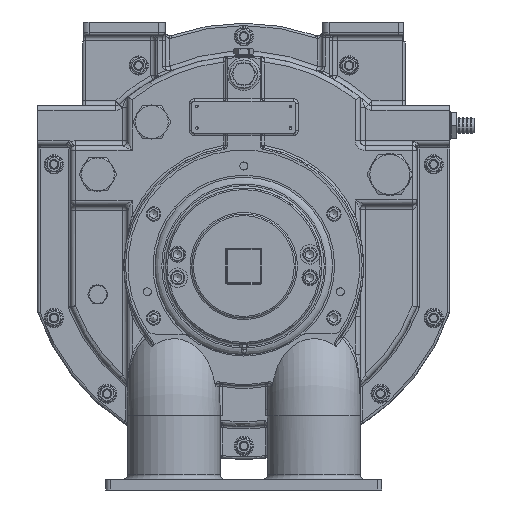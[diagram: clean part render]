
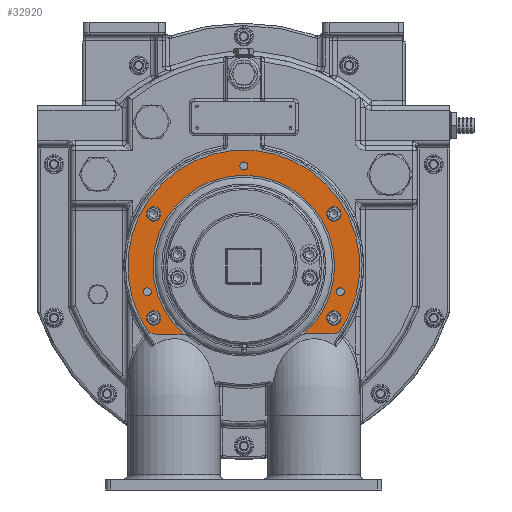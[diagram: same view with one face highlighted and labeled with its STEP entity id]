
A CAD part, left-side view. The second image highlights one B-rep face of the part: STEP entity #32920.
In plain terms, the highlighted planar face has unit normal (-1, 0, 0).
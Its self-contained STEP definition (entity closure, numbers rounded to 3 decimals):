
#1854=FACE_BOUND('',#5586,.T.);
#1855=FACE_BOUND('',#5587,.T.);
#1856=FACE_BOUND('',#5588,.T.);
#1857=FACE_BOUND('',#5589,.T.);
#1858=FACE_BOUND('',#5590,.T.);
#1859=FACE_BOUND('',#5591,.T.);
#1860=FACE_BOUND('',#5592,.T.);
#2366=PLANE('',#35546);
#3481=FACE_OUTER_BOUND('',#5585,.T.);
#5585=EDGE_LOOP('',(#23319,#23320,#23321,#23322,#23323,#23324,#23325,#23326));
#5586=EDGE_LOOP('',(#23327));
#5587=EDGE_LOOP('',(#23328));
#5588=EDGE_LOOP('',(#23329));
#5589=EDGE_LOOP('',(#23330));
#5590=EDGE_LOOP('',(#23331));
#5591=EDGE_LOOP('',(#23332));
#5592=EDGE_LOOP('',(#23333));
#7724=LINE('',#52260,#9479);
#7734=LINE('',#52317,#9489);
#9479=VECTOR('',#41094,10.);
#9489=VECTOR('',#41158,10.);
#11089=CIRCLE('',#35214,9.);
#11094=CIRCLE('',#35229,9.);
#11099=CIRCLE('',#35244,9.);
#11104=CIRCLE('',#35259,9.);
#11244=CIRCLE('',#35526,6.);
#11250=CIRCLE('',#35534,6.);
#11252=CIRCLE('',#35538,5.053);
#11254=CIRCLE('',#35541,5.053);
#11256=CIRCLE('',#35544,5.053);
#11258=CIRCLE('',#35547,113.5);
#11259=CIRCLE('',#35548,20.);
#11260=CIRCLE('',#35549,145.);
#11261=CIRCLE('',#35550,20.);
#13312=VERTEX_POINT('',#51296);
#13330=VERTEX_POINT('',#51364);
#13348=VERTEX_POINT('',#51432);
#13366=VERTEX_POINT('',#51500);
#13559=VERTEX_POINT('',#52257);
#13560=VERTEX_POINT('',#52259);
#13562=VERTEX_POINT('',#52265);
#13569=VERTEX_POINT('',#52283);
#13570=VERTEX_POINT('',#52285);
#13572=VERTEX_POINT('',#52292);
#13574=VERTEX_POINT('',#52298);
#13576=VERTEX_POINT('',#52304);
#13578=VERTEX_POINT('',#52311);
#13579=VERTEX_POINT('',#52313);
#13580=VERTEX_POINT('',#52315);
#16659=EDGE_CURVE('',#13312,#13312,#11089,.T.);
#16685=EDGE_CURVE('',#13330,#13330,#11094,.T.);
#16711=EDGE_CURVE('',#13348,#13348,#11099,.T.);
#16737=EDGE_CURVE('',#13366,#13366,#11104,.T.);
#17038=EDGE_CURVE('',#13560,#13559,#7724,.T.);
#17041=EDGE_CURVE('',#13562,#13560,#11244,.T.);
#17051=EDGE_CURVE('',#13570,#13569,#11250,.T.);
#17054=EDGE_CURVE('',#13572,#13572,#11252,.T.);
#17057=EDGE_CURVE('',#13574,#13574,#11254,.T.);
#17060=EDGE_CURVE('',#13576,#13576,#11256,.T.);
#17063=EDGE_CURVE('',#13569,#13562,#11258,.T.);
#17064=EDGE_CURVE('',#13559,#13578,#11259,.T.);
#17065=EDGE_CURVE('',#13578,#13579,#11260,.T.);
#17066=EDGE_CURVE('',#13579,#13580,#11261,.T.);
#17067=EDGE_CURVE('',#13580,#13570,#7734,.T.);
#23319=ORIENTED_EDGE('',*,*,#17051,.T.);
#23320=ORIENTED_EDGE('',*,*,#17063,.T.);
#23321=ORIENTED_EDGE('',*,*,#17041,.T.);
#23322=ORIENTED_EDGE('',*,*,#17038,.T.);
#23323=ORIENTED_EDGE('',*,*,#17064,.T.);
#23324=ORIENTED_EDGE('',*,*,#17065,.T.);
#23325=ORIENTED_EDGE('',*,*,#17066,.T.);
#23326=ORIENTED_EDGE('',*,*,#17067,.T.);
#23327=ORIENTED_EDGE('',*,*,#16659,.F.);
#23328=ORIENTED_EDGE('',*,*,#16685,.F.);
#23329=ORIENTED_EDGE('',*,*,#16711,.F.);
#23330=ORIENTED_EDGE('',*,*,#16737,.F.);
#23331=ORIENTED_EDGE('',*,*,#17054,.F.);
#23332=ORIENTED_EDGE('',*,*,#17057,.F.);
#23333=ORIENTED_EDGE('',*,*,#17060,.F.);
#32920=ADVANCED_FACE('',(#3481,#1854,#1855,#1856,#1857,#1858,#1859,#1860),
#2366,.T.);
#35214=AXIS2_PLACEMENT_3D('',#51297,#40309,#40310);
#35229=AXIS2_PLACEMENT_3D('',#51365,#40353,#40354);
#35244=AXIS2_PLACEMENT_3D('',#51433,#40397,#40398);
#35259=AXIS2_PLACEMENT_3D('',#51501,#40441,#40442);
#35526=AXIS2_PLACEMENT_3D('',#52266,#41100,#41101);
#35534=AXIS2_PLACEMENT_3D('',#52286,#41120,#41121);
#35538=AXIS2_PLACEMENT_3D('',#52293,#41129,#41130);
#35541=AXIS2_PLACEMENT_3D('',#52299,#41136,#41137);
#35544=AXIS2_PLACEMENT_3D('',#52305,#41143,#41144);
#35546=AXIS2_PLACEMENT_3D('',#52309,#41148,#41149);
#35547=AXIS2_PLACEMENT_3D('',#52310,#41150,#41151);
#35548=AXIS2_PLACEMENT_3D('',#52312,#41152,#41153);
#35549=AXIS2_PLACEMENT_3D('',#52314,#41154,#41155);
#35550=AXIS2_PLACEMENT_3D('',#52316,#41156,#41157);
#40309=DIRECTION('center_axis',(-1.,0.,0.));
#40310=DIRECTION('ref_axis',(0.,1.,0.));
#40353=DIRECTION('center_axis',(-1.,0.,0.));
#40354=DIRECTION('ref_axis',(0.,1.,0.));
#40397=DIRECTION('center_axis',(-1.,0.,0.));
#40398=DIRECTION('ref_axis',(0.,1.,0.));
#40441=DIRECTION('center_axis',(-1.,0.,0.));
#40442=DIRECTION('ref_axis',(0.,1.,0.));
#41094=DIRECTION('',(0.,-1.,0.));
#41100=DIRECTION('center_axis',(1.,0.,0.));
#41101=DIRECTION('ref_axis',(0.,0.341,0.94));
#41120=DIRECTION('center_axis',(1.,0.,0.));
#41121=DIRECTION('ref_axis',(0.,-0.341,0.94));
#41129=DIRECTION('center_axis',(-1.,0.,0.));
#41130=DIRECTION('ref_axis',(0.,-1.,0.));
#41136=DIRECTION('center_axis',(-1.,0.,0.));
#41137=DIRECTION('ref_axis',(0.,-1.,0.));
#41143=DIRECTION('center_axis',(-1.,0.,0.));
#41144=DIRECTION('ref_axis',(0.,-1.,0.));
#41148=DIRECTION('center_axis',(-1.,0.,0.));
#41149=DIRECTION('ref_axis',(0.,1.,0.));
#41150=DIRECTION('center_axis',(1.,0.,0.));
#41151=DIRECTION('ref_axis',(0.,1.,0.));
#41152=DIRECTION('center_axis',(-1.,0.,0.));
#41153=DIRECTION('ref_axis',(0.,-0.496,-0.868));
#41154=DIRECTION('center_axis',(-1.,0.,0.));
#41155=DIRECTION('ref_axis',(0.,-1.,0.));
#41156=DIRECTION('center_axis',(-1.,0.,0.));
#41157=DIRECTION('ref_axis',(0.,0.496,-0.868));
#41158=DIRECTION('',(0.,-1.,0.));
#51296=CARTESIAN_POINT('',(-299.5,-121.583,34.));
#51297=CARTESIAN_POINT('Origin',(-299.5,-112.583,34.));
#51364=CARTESIAN_POINT('',(-299.5,-121.583,-96.));
#51365=CARTESIAN_POINT('Origin',(-299.5,-112.583,-96.));
#51432=CARTESIAN_POINT('',(-299.5,103.583,-96.));
#51433=CARTESIAN_POINT('Origin',(-299.5,112.583,-96.));
#51500=CARTESIAN_POINT('',(-299.5,103.583,34.));
#51501=CARTESIAN_POINT('Origin',(-299.5,112.583,34.));
#52257=CARTESIAN_POINT('',(-299.5,-110.268,-116.));
#52259=CARTESIAN_POINT('',(-299.5,-75.903,-116.));
#52260=CARTESIAN_POINT('',(-299.5,-36.849,-116.));
#52265=CARTESIAN_POINT('',(-299.5,-75.163,-116.046));
#52266=CARTESIAN_POINT('Origin',(-299.5,-75.903,-122.));
#52283=CARTESIAN_POINT('',(-299.5,75.163,-116.046));
#52285=CARTESIAN_POINT('',(-299.5,75.903,-116.));
#52286=CARTESIAN_POINT('Origin',(-299.5,75.903,-122.));
#52292=CARTESIAN_POINT('',(-299.5,5.053,94.));
#52293=CARTESIAN_POINT('Origin',(-299.5,0.,
94.));
#52298=CARTESIAN_POINT('',(-299.5,125.794,-63.352));
#52299=CARTESIAN_POINT('Origin',(-299.5,120.741,-63.352));
#52304=CARTESIAN_POINT('',(-299.5,-115.688,-63.352));
#52305=CARTESIAN_POINT('Origin',(-299.5,-120.741,-63.352));
#52309=CARTESIAN_POINT('Origin',(-299.5,0.,
-31.));
#52310=CARTESIAN_POINT('Origin',(-299.5,0.,
-31.));
#52311=CARTESIAN_POINT('',(-299.5,-118.849,-114.065));
#52312=CARTESIAN_POINT('Origin',(-299.5,-110.268,-96.));
#52313=CARTESIAN_POINT('',(-299.5,118.849,-114.065));
#52314=CARTESIAN_POINT('Origin',(-299.5,0.,
-31.));
#52315=CARTESIAN_POINT('',(-299.5,110.268,-116.));
#52316=CARTESIAN_POINT('Origin',(-299.5,110.268,-96.));
#52317=CARTESIAN_POINT('',(-299.5,60.578,-116.));
